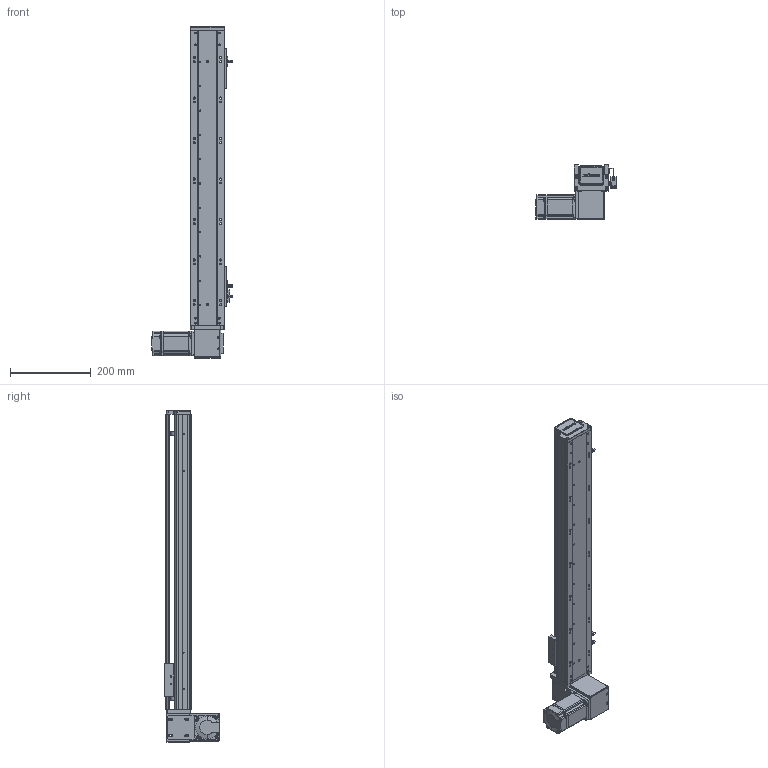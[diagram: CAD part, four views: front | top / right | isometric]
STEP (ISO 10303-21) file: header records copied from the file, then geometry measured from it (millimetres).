
FILE_DESCRIPTION (( 'STEP AP203' ), '1' );
FILE_NAME ('RY80-T-300-DL.SLDASM_550.step', '2021-03-01T01:37:53', ( '盈信电脑' ), ( '东莞市道滘镇水果街19号' ), 'SwSTEP 2.0', 'SolidWorks 2012', '' );
FILE_SCHEMA (( 'CONFIG_CONTROL_DESIGN' ));
Products named in the file (19): RY100-T粣創揤踡裔; RY80-T-300-DL.SLDASM_550; RY80-T-上下折同步轮盖板; 1; RY80-T肮祭謫狟殏俋欶; 滅袉蝶18-10; RY80-T-M4蹟翐3; RY80-T肮祭湍揤輸2; RY80-T翋肮祭謫裔啣; RY80-T肮祭湍揤輸1; RY80-T萇儂假蚾啣; 覜茼ん672; RY80-T-翋肮祭謫釱; RY80俋离覜茼え; 672嫖萇羲壽假蚾釱; RY80-T肮祭謫臏賑輸; RY80-T-300-DL倰第奻裔啣_550; RY80-T綴裔啣; RY80-T-300-DL倰第菁釱_550
Assembly tree (24 placements, depth 2):
  RY80-T-300-DL.SLDASM_550
    RY80-T-300-DL倰第菁釱_550
    RY80-T肮祭謫臏賑輸
    RY80-T-300-DL倰第奻裔啣_550
    RY80-T綴裔啣
    672嫖萇羲壽假蚾釱  x2
    覜茼ん672  x3
    RY80俋离覜茼え
    RY80-T-翋肮祭謫釱
    RY80-T肮祭湍揤輸1
    RY80-T肮祭湍揤輸2
    RY80-T萇儂假蚾啣
    RY80-T翋肮祭謫裔啣  x2
    滅袉蝶18-10  x2
    1
    RY80-T肮祭謫狟殏俋欶
    RY80-T-M4蹟翐3  x2
    RY80-T-上下折同步轮盖板
    RY100-T粣創揤踡裔
Bounding box: 198.7 x 134.5 x 820 mm (x, y, z)
Volume: 1601621.7 mm3; surface area: 661914.3 mm2
Topology: 24 solids, 24 shells, 2480 faces, 6830 edges, 4433 vertices
Faces by surface type: plane 1341, cylinder 934, cone 149, bspline 56
Entity records: 77801 total; most frequent: CARTESIAN_POINT 18858, ORIENTED_EDGE 12104, DIRECTION 11374, EDGE_CURVE 6052, VERTEX_POINT 3974, AXIS2_PLACEMENT_3D 3814, VECTOR 3746, LINE 3746
